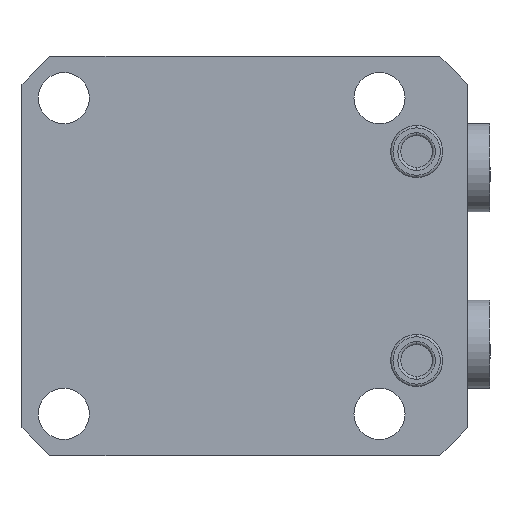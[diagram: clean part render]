
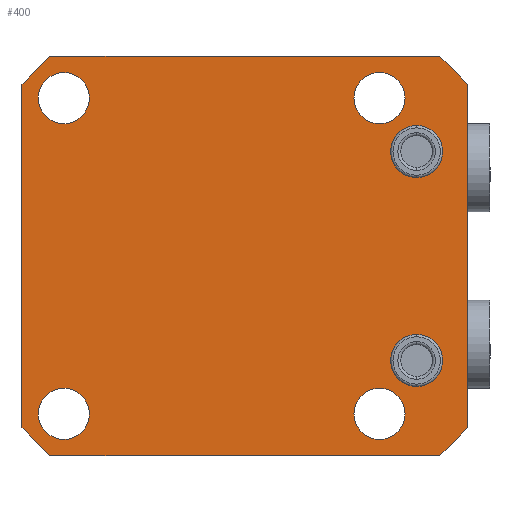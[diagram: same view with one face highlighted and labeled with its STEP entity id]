
A CAD part, front view. The second image highlights one B-rep face of the part: STEP entity #400.
In plain terms, the highlighted planar face has unit normal (0, -1, 0).
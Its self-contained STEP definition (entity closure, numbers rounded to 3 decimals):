
#400=ADVANCED_FACE('',(#956,#957,#958,#959,#960,#961,#962),#539,.F.);
#539=PLANE('',#2686);
#597=LINE('',#3722,#749);
#621=LINE('',#3919,#773);
#622=LINE('',#3922,#774);
#623=LINE('',#3924,#775);
#624=LINE('',#3926,#776);
#625=LINE('',#3928,#777);
#626=LINE('',#3930,#778);
#627=LINE('',#3931,#779);
#749=VECTOR('',#2936,1.);
#773=VECTOR('',#3082,1.);
#774=VECTOR('',#3083,1.);
#775=VECTOR('',#3084,1.);
#776=VECTOR('',#3085,1.);
#777=VECTOR('',#3086,1.);
#778=VECTOR('',#3087,1.);
#779=VECTOR('',#3088,1.);
#956=FACE_BOUND('',#1015,.T.);
#957=FACE_BOUND('',#1016,.T.);
#958=FACE_BOUND('',#1017,.T.);
#959=FACE_BOUND('',#1018,.T.);
#960=FACE_BOUND('',#1019,.T.);
#961=FACE_BOUND('',#1020,.T.);
#962=FACE_BOUND('',#1021,.T.);
#1015=EDGE_LOOP('',(#1257,#1258,#1259,#1260,#1261,#1262,#1263,#1264));
#1016=EDGE_LOOP('',(#1265,#1266));
#1017=EDGE_LOOP('',(#1267,#1268));
#1018=EDGE_LOOP('',(#1269,#1270));
#1019=EDGE_LOOP('',(#1271,#1272));
#1020=EDGE_LOOP('',(#1273,#1274));
#1021=EDGE_LOOP('',(#1275,#1276));
#1257=ORIENTED_EDGE('',*,*,#2190,.F.);
#1258=ORIENTED_EDGE('',*,*,#2191,.T.);
#1259=ORIENTED_EDGE('',*,*,#2192,.F.);
#1260=ORIENTED_EDGE('',*,*,#2193,.T.);
#1261=ORIENTED_EDGE('',*,*,#2194,.F.);
#1262=ORIENTED_EDGE('',*,*,#2195,.T.);
#1263=ORIENTED_EDGE('',*,*,#2113,.F.);
#1264=ORIENTED_EDGE('',*,*,#2196,.T.);
#1265=ORIENTED_EDGE('',*,*,#2170,.F.);
#1266=ORIENTED_EDGE('',*,*,#2197,.F.);
#1267=ORIENTED_EDGE('',*,*,#2166,.F.);
#1268=ORIENTED_EDGE('',*,*,#2198,.F.);
#1269=ORIENTED_EDGE('',*,*,#2162,.F.);
#1270=ORIENTED_EDGE('',*,*,#2199,.F.);
#1271=ORIENTED_EDGE('',*,*,#2158,.F.);
#1272=ORIENTED_EDGE('',*,*,#2200,.F.);
#1273=ORIENTED_EDGE('',*,*,#2201,.F.);
#1274=ORIENTED_EDGE('',*,*,#2156,.F.);
#1275=ORIENTED_EDGE('',*,*,#2136,.T.);
#1276=ORIENTED_EDGE('',*,*,#2202,.T.);
#1891=VERTEX_POINT('',#3721);
#1892=VERTEX_POINT('',#3723);
#1909=VERTEX_POINT('',#3768);
#1910=VERTEX_POINT('',#3770);
#1923=VERTEX_POINT('',#3807);
#1924=VERTEX_POINT('',#3809);
#1925=VERTEX_POINT('',#3813);
#1926=VERTEX_POINT('',#3814);
#1929=VERTEX_POINT('',#3822);
#1930=VERTEX_POINT('',#3823);
#1933=VERTEX_POINT('',#3831);
#1934=VERTEX_POINT('',#3832);
#1937=VERTEX_POINT('',#3840);
#1938=VERTEX_POINT('',#3841);
#1957=VERTEX_POINT('',#3920);
#1958=VERTEX_POINT('',#3921);
#1959=VERTEX_POINT('',#3923);
#1960=VERTEX_POINT('',#3925);
#1961=VERTEX_POINT('',#3927);
#1962=VERTEX_POINT('',#3929);
#2113=EDGE_CURVE('',#1891,#1892,#597,.T.);
#2136=EDGE_CURVE('',#1910,#1909,#2483,.T.);
#2156=EDGE_CURVE('',#1923,#1924,#2499,.T.);
#2158=EDGE_CURVE('',#1925,#1926,#2500,.T.);
#2162=EDGE_CURVE('',#1929,#1930,#2502,.T.);
#2166=EDGE_CURVE('',#1933,#1934,#2504,.T.);
#2170=EDGE_CURVE('',#1937,#1938,#2506,.T.);
#2190=EDGE_CURVE('',#1957,#1958,#621,.T.);
#2191=EDGE_CURVE('',#1957,#1959,#622,.T.);
#2192=EDGE_CURVE('',#1960,#1959,#623,.T.);
#2193=EDGE_CURVE('',#1960,#1961,#624,.T.);
#2194=EDGE_CURVE('',#1962,#1961,#625,.T.);
#2195=EDGE_CURVE('',#1962,#1892,#626,.T.);
#2196=EDGE_CURVE('',#1891,#1958,#627,.T.);
#2197=EDGE_CURVE('',#1938,#1937,#2510,.T.);
#2198=EDGE_CURVE('',#1934,#1933,#2511,.T.);
#2199=EDGE_CURVE('',#1930,#1929,#2512,.T.);
#2200=EDGE_CURVE('',#1926,#1925,#2513,.T.);
#2201=EDGE_CURVE('',#1924,#1923,#2514,.T.);
#2202=EDGE_CURVE('',#1909,#1910,#2515,.T.);
#2483=CIRCLE('',#2641,5.6);
#2499=CIRCLE('',#2662,5.6);
#2500=CIRCLE('',#2664,5.5);
#2502=CIRCLE('',#2667,5.5);
#2504=CIRCLE('',#2670,5.5);
#2506=CIRCLE('',#2673,5.5);
#2510=CIRCLE('',#2680,5.5);
#2511=CIRCLE('',#2681,5.5);
#2512=CIRCLE('',#2682,5.5);
#2513=CIRCLE('',#2683,5.5);
#2514=CIRCLE('',#2684,5.6);
#2515=CIRCLE('',#2685,5.6);
#2641=AXIS2_PLACEMENT_3D('',#3769,#2987,#2988);
#2662=AXIS2_PLACEMENT_3D('',#3808,#3033,#3034);
#2664=AXIS2_PLACEMENT_3D('',#3812,#3038,#3039);
#2667=AXIS2_PLACEMENT_3D('',#3821,#3046,#3047);
#2670=AXIS2_PLACEMENT_3D('',#3830,#3054,#3055);
#2673=AXIS2_PLACEMENT_3D('',#3839,#3062,#3063);
#2680=AXIS2_PLACEMENT_3D('',#3932,#3089,#3090);
#2681=AXIS2_PLACEMENT_3D('',#3933,#3091,#3092);
#2682=AXIS2_PLACEMENT_3D('',#3934,#3093,#3094);
#2683=AXIS2_PLACEMENT_3D('',#3935,#3095,#3096);
#2684=AXIS2_PLACEMENT_3D('',#3936,#3097,#3098);
#2685=AXIS2_PLACEMENT_3D('',#3937,#3099,#3100);
#2686=AXIS2_PLACEMENT_3D('',#3938,#3101,#3102);
#2936=DIRECTION('',(0.,0.,-1.));
#2987=DIRECTION('',(0.,1.,0.));
#2988=DIRECTION('',(0.,0.,1.));
#3033=DIRECTION('',(0.,-1.,0.));
#3034=DIRECTION('',(0.,0.,-1.));
#3038=DIRECTION('',(0.,-1.,0.));
#3039=DIRECTION('',(0.,0.,1.));
#3046=DIRECTION('',(0.,-1.,0.));
#3047=DIRECTION('',(0.,0.,1.));
#3054=DIRECTION('',(0.,-1.,0.));
#3055=DIRECTION('',(0.,0.,1.));
#3062=DIRECTION('',(0.,-1.,0.));
#3063=DIRECTION('',(0.,0.,1.));
#3082=DIRECTION('',(1.,0.,0.));
#3083=DIRECTION('',(-0.707,0.,-0.707));
#3084=DIRECTION('',(0.,0.,1.));
#3085=DIRECTION('',(0.707,0.,-0.707));
#3086=DIRECTION('',(-1.,0.,0.));
#3087=DIRECTION('',(0.707,0.,0.707));
#3088=DIRECTION('',(-0.707,0.,0.707));
#3089=DIRECTION('',(0.,-1.,0.));
#3090=DIRECTION('',(0.,0.,1.));
#3091=DIRECTION('',(0.,-1.,0.));
#3092=DIRECTION('',(0.,0.,1.));
#3093=DIRECTION('',(0.,-1.,0.));
#3094=DIRECTION('',(0.,0.,1.));
#3095=DIRECTION('',(0.,-1.,0.));
#3096=DIRECTION('',(0.,0.,1.));
#3097=DIRECTION('',(0.,-1.,0.));
#3098=DIRECTION('',(0.,0.,-1.));
#3099=DIRECTION('',(0.,1.,0.));
#3100=DIRECTION('',(0.,0.,1.));
#3101=DIRECTION('',(0.,1.,0.));
#3102=DIRECTION('',(0.,0.,-1.));
#3721=CARTESIAN_POINT('',(53.,0.,37.));
#3722=CARTESIAN_POINT('',(53.,0.,-43.));
#3723=CARTESIAN_POINT('',(53.,0.,-37.));
#3768=CARTESIAN_POINT('',(42.,0.,28.1));
#3769=CARTESIAN_POINT('',(42.,0.,22.5));
#3770=CARTESIAN_POINT('',(42.,0.,16.9));
#3807=CARTESIAN_POINT('',(42.,0.,-16.9));
#3808=CARTESIAN_POINT('',(42.,0.,-22.5));
#3809=CARTESIAN_POINT('',(42.,0.,-28.1));
#3812=CARTESIAN_POINT('',(-34.,0.,34.));
#3813=CARTESIAN_POINT('',(-34.,0.,39.5));
#3814=CARTESIAN_POINT('',(-34.,0.,28.5));
#3821=CARTESIAN_POINT('',(34.,0.,34.));
#3822=CARTESIAN_POINT('',(34.,0.,39.5));
#3823=CARTESIAN_POINT('',(34.,0.,28.5));
#3830=CARTESIAN_POINT('',(-34.,0.,-34.));
#3831=CARTESIAN_POINT('',(-34.,0.,-28.5));
#3832=CARTESIAN_POINT('',(-34.,0.,-39.5));
#3839=CARTESIAN_POINT('',(34.,0.,-34.));
#3840=CARTESIAN_POINT('',(34.,0.,-28.5));
#3841=CARTESIAN_POINT('',(34.,0.,-39.5));
#3919=CARTESIAN_POINT('',(-43.,0.,43.));
#3920=CARTESIAN_POINT('',(-37.,0.,43.));
#3921=CARTESIAN_POINT('',(47.,0.,43.));
#3922=CARTESIAN_POINT('',(-37.,0.,43.));
#3923=CARTESIAN_POINT('',(-43.,0.,37.));
#3924=CARTESIAN_POINT('',(-43.,0.,-43.));
#3925=CARTESIAN_POINT('',(-43.,0.,-37.));
#3926=CARTESIAN_POINT('',(-43.,0.,-37.));
#3927=CARTESIAN_POINT('',(-37.,0.,-43.));
#3928=CARTESIAN_POINT('',(-43.,0.,-43.));
#3929=CARTESIAN_POINT('',(47.,0.,-43.));
#3930=CARTESIAN_POINT('',(47.,0.,-43.));
#3931=CARTESIAN_POINT('',(53.,0.,37.));
#3932=CARTESIAN_POINT('',(34.,0.,-34.));
#3933=CARTESIAN_POINT('',(-34.,0.,-34.));
#3934=CARTESIAN_POINT('',(34.,0.,34.));
#3935=CARTESIAN_POINT('',(-34.,0.,34.));
#3936=CARTESIAN_POINT('',(42.,0.,-22.5));
#3937=CARTESIAN_POINT('',(42.,0.,22.5));
#3938=CARTESIAN_POINT('',(-43.,0.,43.));
